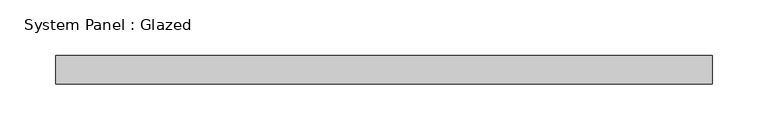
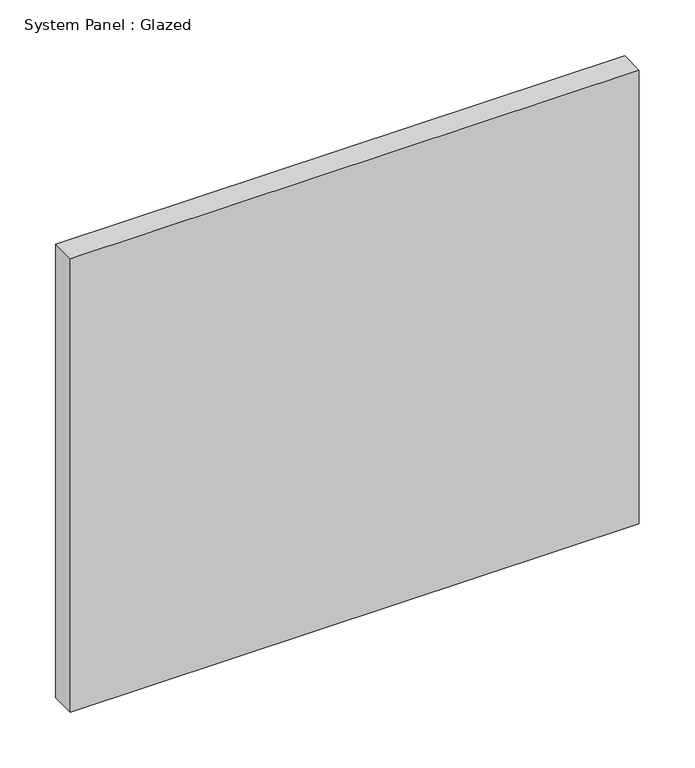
"""IFC4 building model written with IfcOpenShell, lengths in millimetres: plate geometry, System Panel : Glazed."""

from ifc_helpers import new_model, si_unit, origin, origin_with_axes, place, context, project, spatial, polyline, outline, extrude, source, transform, mapped, element, save


def system_panel_glazed_c8d1af00(model_context):
    return source(origin(), model_context, "Body", "SweptSolid", [
        extrude(outline(polyline([(294.005, -12.7), (-294.005, -12.7), (-294.005, 12.7), (294.005, 12.7), (294.005, -12.7)])), origin_with_axes(), (0.0, 0.0, 1.0), 495.3),
    ])


if __name__ == "__main__":
    model = new_model("IFC4")
    model_context = context("Model", 3, world=origin())
    ifc_project = project(units=[si_unit("LENGTHUNIT", "METRE", prefix="MILLI")], contexts=[model_context])
    site = spatial("IfcSite", under=ifc_project)
    building = spatial("IfcBuilding", under=site)
    placement = place(None, origin())
    system_panel_glazed_shape = system_panel_glazed_c8d1af00(model_context)
    element("IfcPlate", 1, ObjectType="System Panel : Glazed", at=placement, inside=building, context=model_context, shape_type="MappedRepresentation", body=[
        mapped(system_panel_glazed_shape, transform((0.0, 0.0, 0.0), x_axis=(1.0, 0.0, 0.0), y_axis=(0.0, 1.0, 0.0), z_axis=(0.0, 0.0, 1.0))),
    ])
    save(model, "model.ifc")
